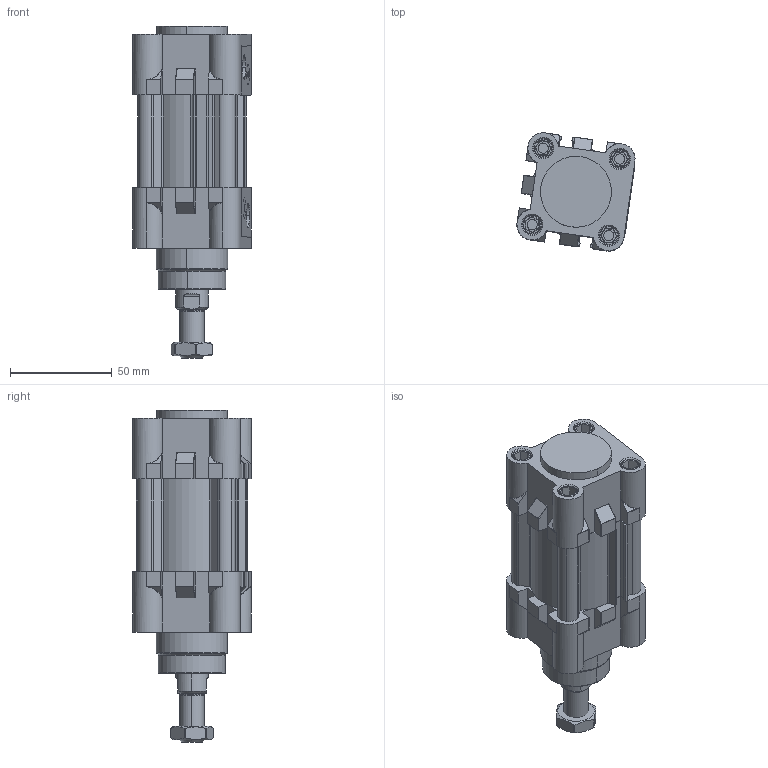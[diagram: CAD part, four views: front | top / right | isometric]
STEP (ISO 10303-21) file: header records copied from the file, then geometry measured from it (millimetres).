
FILE_DESCRIPTION (( 'STEP AP203' ), '1' );
FILE_NAME ('KDNT40X0CYLÝNDER.STEP', '2014-07-10T07:45:57', ( 'user' ), ( '' ), 'SwSTEP 2.0', 'SolidWorks 2013', '' );
FILE_SCHEMA (( 'CONFIG_CONTROL_DESIGN' ));
Length unit declared in the file: millimetre
Products named in the file (19): 烰 KAPAK  40; YATAKLAMA BANDI 40; KDNT40X0CYLÝNDER; YASTIKLAMA VÝDASI 40; PÝSTON KEÇESÝ 40; YASTIKLAMA VÝDASI O-RÝNG 40; MIKNATIS 40; PUL 40; ORTA PÝSTON O-RÝNG 40; CIVATA 40; ARKA KAPAK 40; Piston Mili 40X0 STROK; YASTIKLAMA KEÇESÝ 40; ﾖN MﾝL KEﾇESﾝ 40; KAPAK O-RÝNGÝ 40; KDNT 40X0 BORU; V媶A 40; ORTA PÝSTON 40; SOMUN 40
Assembly tree (32 placements, depth 2):
  KDNT40X0CYLÝNDER
    ORTA PÝSTON 40
    YATAKLAMA BANDI 40
    PÝSTON KEÇESÝ 40  x2
    MIKNATIS 40  x2
    ORTA PÝSTON O-RÝNG 40
    ARKA KAPAK 40
    YASTIKLAMA KEÇESÝ 40  x2
    KAPAK O-RÝNGÝ 40  x2
    V媶A 40
    烰 KAPAK  40
    YASTIKLAMA VÝDASI 40  x2
    YASTIKLAMA VÝDASI O-RÝNG 40  x2
    PUL 40  x2
    CIVATA 40  x8
    Piston Mili 40X0 STROK
    ﾖN MﾝL KEﾇESﾝ 40
    KDNT 40X0 BORU
    SOMUN 40
Bounding box: 57.99 x 57.99 x 163 mm (x, y, z)
Volume: 225951.3 mm3; surface area: 117341.1 mm2
Topology: 34 solids, 34 shells, 1416 faces, 3303 edges, 2053 vertices
Faces by surface type: plane 513, cylinder 480, cone 271, torus 116, bspline 24, sphere 12
Entity records: 33044 total; most frequent: CARTESIAN_POINT 7224, DIRECTION 5117, ORIENTED_EDGE 4756, EDGE_CURVE 2378, AXIS2_PLACEMENT_3D 2038, VERTEX_POINT 1485, EDGE_LOOP 1149, LINE 1041
